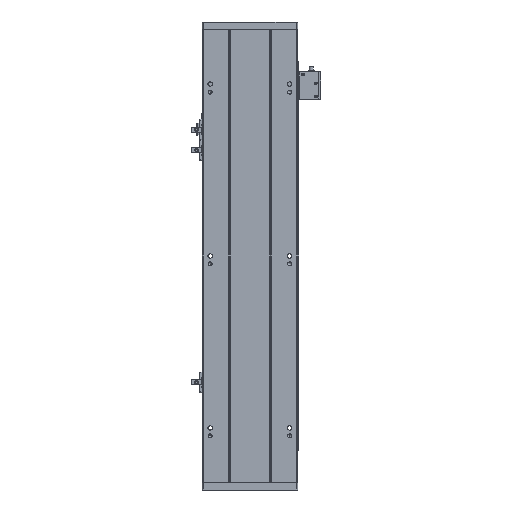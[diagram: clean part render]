
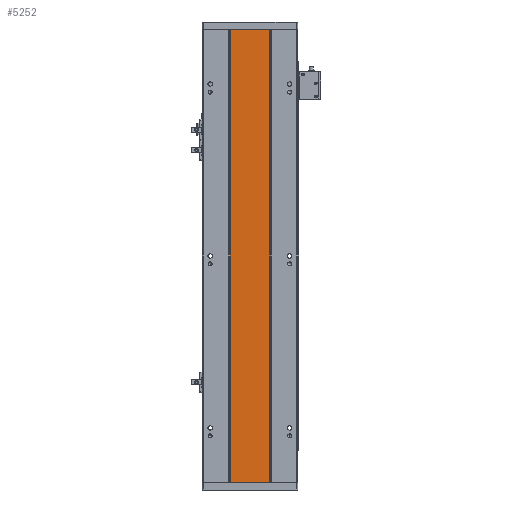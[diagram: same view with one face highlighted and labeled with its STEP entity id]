
A CAD part, front view. The second image highlights one B-rep face of the part: STEP entity #5252.
In plain terms, the highlighted planar face has unit normal (0, -1, 0).
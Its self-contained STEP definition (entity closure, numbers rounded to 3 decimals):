
#3550 = ORIENTED_EDGE ( 'NONE', *, *, #7714, .T. ) ;
#3718 = VECTOR ( 'NONE', #10229, 1000. ) ;
#4701 = CARTESIAN_POINT ( 'NONE',  ( 133.07, 115.96, 568. ) ) ;
#5252 = ADVANCED_FACE ( 'NONE', ( #10992 ), #7173, .F. ) ;
#5599 = CARTESIAN_POINT ( 'NONE',  ( 0., 115.96, 0. ) ) ;
#5711 = DIRECTION ( 'NONE',  ( -1., 0., 0. ) ) ;
#6259 = CARTESIAN_POINT ( 'NONE',  ( 133.07, 115.96, 568. ) ) ;
#6291 = VECTOR ( 'NONE', #18545, 1000. ) ;
#6580 = VERTEX_POINT ( 'NONE', #7857 ) ;
#7090 = VERTEX_POINT ( 'NONE', #7449 ) ;
#7122 = EDGE_CURVE ( 'NONE', #17806, #6580, #21706, .T. ) ;
#7173 = PLANE ( 'NONE',  #17516 ) ;
#7449 = CARTESIAN_POINT ( 'NONE',  ( 183.063, 115.96, 568. ) ) ;
#7554 = EDGE_CURVE ( 'NONE', #23730, #7090, #9742, .T. ) ;
#7714 = EDGE_CURVE ( 'NONE', #23730, #17806, #23170, .T. ) ;
#7857 = CARTESIAN_POINT ( 'NONE',  ( 183.063, 115.96, 0. ) ) ;
#7921 = ORIENTED_EDGE ( 'NONE', *, *, #7122, .T. ) ;
#8616 = DIRECTION ( 'NONE',  ( 1., 0., 0. ) ) ;
#9742 = LINE ( 'NONE', #19751, #22272 ) ;
#10229 = DIRECTION ( 'NONE',  ( 0., 0., -1. ) ) ;
#10359 = DIRECTION ( 'NONE',  ( 0., 0., -1. ) ) ;
#10992 = FACE_OUTER_BOUND ( 'NONE', #24029, .T. ) ;
#14766 = CARTESIAN_POINT ( 'NONE',  ( 0., 115.96, 568. ) ) ;
#14911 = EDGE_CURVE ( 'NONE', #7090, #6580, #14952, .T. ) ;
#14952 = LINE ( 'NONE', #15962, #19320 ) ;
#15962 = CARTESIAN_POINT ( 'NONE',  ( 183.063, 115.96, 568. ) ) ;
#16633 = DIRECTION ( 'NONE',  ( 0., 1., 0. ) ) ;
#17516 = AXIS2_PLACEMENT_3D ( 'NONE', #14766, #16633, #5711 ) ;
#17806 = VERTEX_POINT ( 'NONE', #21578 ) ;
#18545 = DIRECTION ( 'NONE',  ( 1., 0., 0. ) ) ;
#19285 = ORIENTED_EDGE ( 'NONE', *, *, #14911, .F. ) ;
#19320 = VECTOR ( 'NONE', #10359, 1000. ) ;
#19751 = CARTESIAN_POINT ( 'NONE',  ( 0., 115.96, 568. ) ) ;
#21578 = CARTESIAN_POINT ( 'NONE',  ( 133.07, 115.96, 0. ) ) ;
#21706 = LINE ( 'NONE', #5599, #6291 ) ;
#22272 = VECTOR ( 'NONE', #8616, 1000. ) ;
#23170 = LINE ( 'NONE', #4701, #3718 ) ;
#23717 = ORIENTED_EDGE ( 'NONE', *, *, #7554, .F. ) ;
#23730 = VERTEX_POINT ( 'NONE', #6259 ) ;
#24029 = EDGE_LOOP ( 'NONE', ( #7921, #19285, #23717, #3550 ) ) ;
